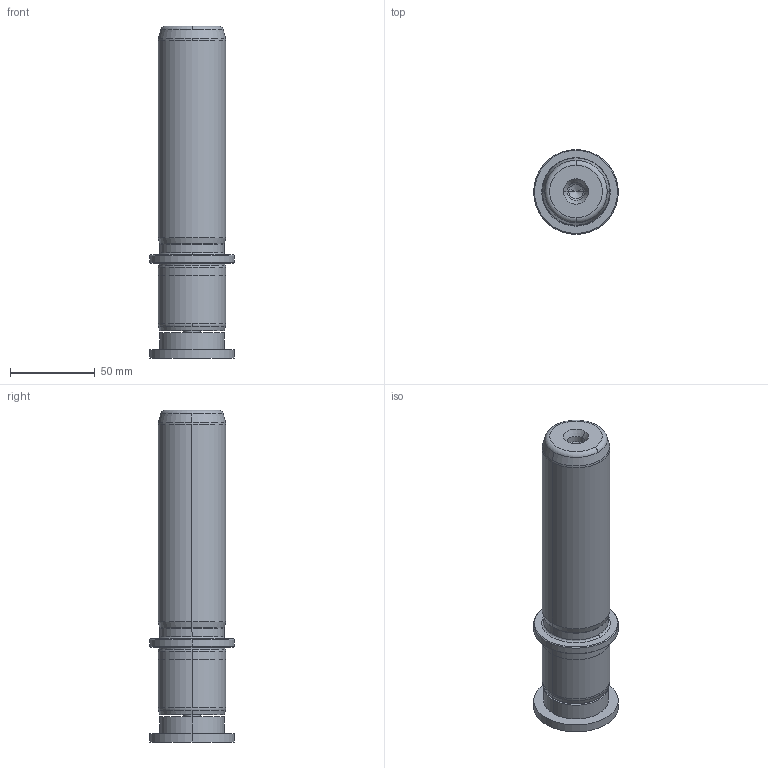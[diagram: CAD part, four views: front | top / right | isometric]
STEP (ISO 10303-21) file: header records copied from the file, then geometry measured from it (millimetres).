
FILE_DESCRIPTION((''),'2;1');
FILE_NAME('P22_040_140.stp','2009-02-16T10:19:37',(''),(''),'Mechanical Desktop 2009','Mechanical Desktop 2009',', , ');
FILE_SCHEMA(('CONFIG_CONTROL_DESIGN'));
Length unit declared in the file: millimetre
Products named in the file (2): Product; blmdl1
Assembly tree (1 placements, depth 2):
  Product
    blmdl1
Bounding box: 50 x 50 x 196 mm (x, y, z)
Volume: 244906.2 mm3; surface area: 36039.2 mm2
Topology: 3 solids, 3 shells, 99 faces, 237 edges, 149 vertices
Faces by surface type: cylinder 32, cone 28, plane 19, torus 10, bspline 10
Entity records: 3419 total; most frequent: CARTESIAN_POINT 923, DIRECTION 570, ORIENTED_EDGE 466, AXIS2_PLACEMENT_3D 246, EDGE_CURVE 233, CIRCLE 155, VERTEX_POINT 149, EDGE_LOOP 110
